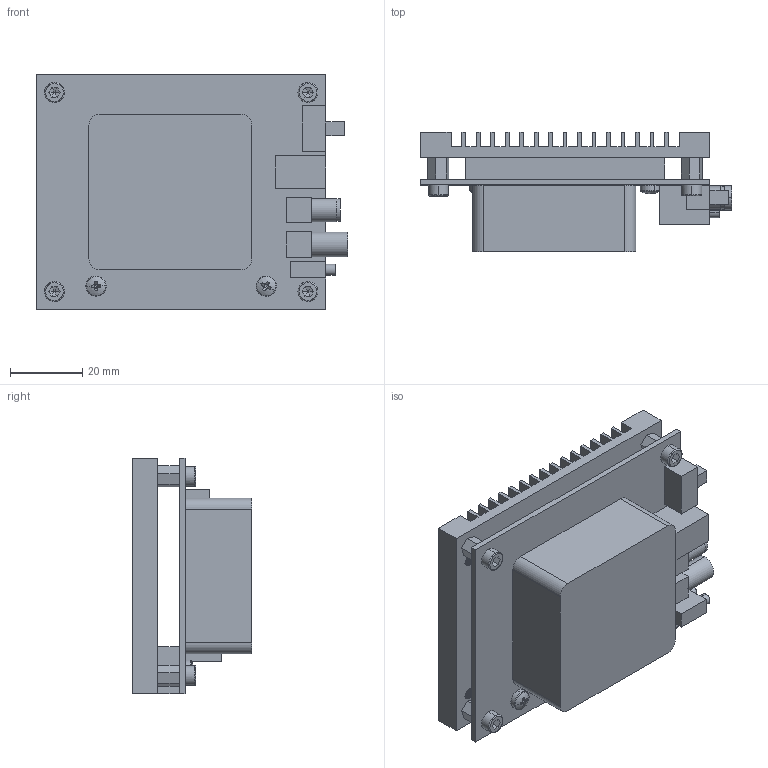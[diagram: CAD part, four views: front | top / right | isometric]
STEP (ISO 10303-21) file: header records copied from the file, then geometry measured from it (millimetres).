
FILE_DESCRIPTION (( 'STEP AP203' ), '1' );
FILE_NAME ('E53.A1K-K1揤萇諷秶ん(1).STEP', '2024-08-26T06:46:51', ( 'User' ), ( 'china' ), 'SwSTEP 2.0', 'SolidWorks 2016', '' );
FILE_SCHEMA (( 'CONFIG_CONTROL_DESIGN' ));
Length unit declared in the file: millimetre
Products named in the file (1): E53.A1K-K1揤萇諷秶ん(1)
Bounding box: 86 x 33 x 65 mm (x, y, z)
Volume: 76008.7 mm3; surface area: 41617 mm2
Topology: 13 solids, 13 shells, 576 faces, 1460 edges, 934 vertices
Faces by surface type: plane 260, cylinder 220, cone 64, bspline 20, torus 8, sphere 4
Entity records: 27761 total; most frequent: CARTESIAN_POINT 14543, ORIENTED_EDGE 2896, DIRECTION 2570, EDGE_CURVE 1448, VERTEX_POINT 934, AXIS2_PLACEMENT_3D 901, VECTOR 768, LINE 768
